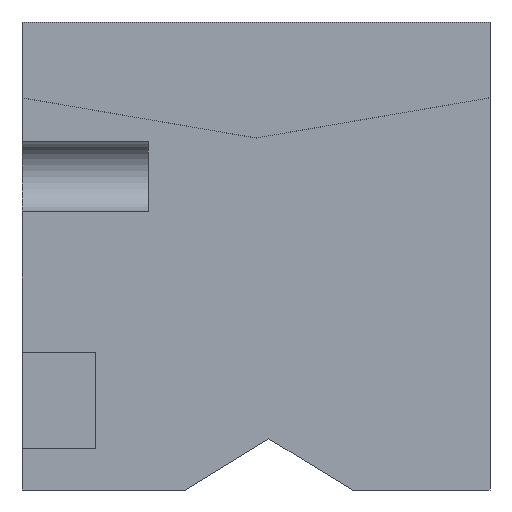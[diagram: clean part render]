
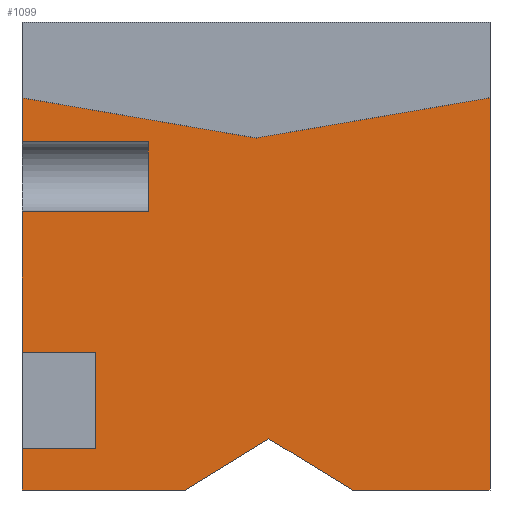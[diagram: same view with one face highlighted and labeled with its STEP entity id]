
A CAD part, front view. The second image highlights one B-rep face of the part: STEP entity #1099.
In plain terms, the highlighted planar face has unit normal (0, -1, 0).
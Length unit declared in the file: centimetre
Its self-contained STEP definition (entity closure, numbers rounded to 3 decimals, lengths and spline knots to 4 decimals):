
#3 = ORIENTED_EDGE ( 'NONE', *, *, #137, .T. ) ;
#6 = CARTESIAN_POINT ( 'NONE',  ( 348.3038, 0., 0. ) ) ;
#11 = CARTESIAN_POINT ( 'NONE',  ( 1000., 0., 838.026 ) ) ;
#22 = EDGE_CURVE ( 'NONE', #906, #1128, #154, .T. ) ;
#25 = DIRECTION ( 'NONE',  ( 0.986, 0., 0.169 ) ) ;
#44 = EDGE_CURVE ( 'NONE', #492, #1404, #311, .T. ) ;
#68 = CARTESIAN_POINT ( 'NONE',  ( 0., 0., 1000. ) ) ;
#77 = DIRECTION ( 'NONE',  ( 0., 0., -1. ) ) ;
#105 = VERTEX_POINT ( 'NONE', #958 ) ;
#112 = DIRECTION ( 'NONE',  ( -1., 0., 0. ) ) ;
#118 = CARTESIAN_POINT ( 'NONE',  ( 348.3038, 0., 0. ) ) ;
#137 = EDGE_CURVE ( 'NONE', #906, #1406, #814, .T. ) ;
#151 = VERTEX_POINT ( 'NONE', #946 ) ;
#154 = LINE ( 'NONE', #304, #870 ) ;
#167 = DIRECTION ( 'NONE',  ( -1., 0., 0. ) ) ;
#182 = EDGE_CURVE ( 'NONE', #1404, #1490, #1574, .T. ) ;
#208 = VERTEX_POINT ( 'NONE', #264 ) ;
#213 = CARTESIAN_POINT ( 'NONE',  ( 0., 0., 0. ) ) ;
#218 = VECTOR ( 'NONE', #167, 100. ) ;
#221 = ORIENTED_EDGE ( 'NONE', *, *, #1197, .F. ) ;
#224 = EDGE_CURVE ( 'NONE', #1490, #345, #631, .T. ) ;
#230 = VERTEX_POINT ( 'NONE', #6 ) ;
#254 = VECTOR ( 'NONE', #1438, 100. ) ;
#256 = LINE ( 'NONE', #1155, #1027 ) ;
#264 = CARTESIAN_POINT ( 'NONE',  ( 500., 0., 752.1271 ) ) ;
#273 = DIRECTION ( 'NONE',  ( 0., 0., 1. ) ) ;
#304 = CARTESIAN_POINT ( 'NONE',  ( 527.3729, 0., 109.4232 ) ) ;
#311 = LINE ( 'NONE', #800, #895 ) ;
#342 = ORIENTED_EDGE ( 'NONE', *, *, #1524, .T. ) ;
#345 = VERTEX_POINT ( 'NONE', #1013 ) ;
#352 = VECTOR ( 'NONE', #25, 100. ) ;
#367 = EDGE_CURVE ( 'NONE', #208, #477, #1272, .T. ) ;
#371 = ORIENTED_EDGE ( 'NONE', *, *, #992, .F. ) ;
#381 = VECTOR ( 'NONE', #112, 100. ) ;
#434 = ORIENTED_EDGE ( 'NONE', *, *, #22, .F. ) ;
#466 = LINE ( 'NONE', #734, #381 ) ;
#469 = EDGE_CURVE ( 'NONE', #1470, #105, #256, .T. ) ;
#477 = VERTEX_POINT ( 'NONE', #11 ) ;
#491 = DIRECTION ( 'NONE',  ( 0., 0., -1. ) ) ;
#492 = VERTEX_POINT ( 'NONE', #749 ) ;
#499 = LINE ( 'NONE', #118, #1371 ) ;
#505 = ORIENTED_EDGE ( 'NONE', *, *, #44, .T. ) ;
#552 = EDGE_LOOP ( 'NONE', ( #665, #600, #1482, #221, #342, #1053, #998, #434, #3, #1492, #1356, #371, #1430, #1352, #505, #1187 ) ) ;
#594 = DIRECTION ( 'NONE',  ( 1., 0., 0. ) ) ;
#600 = ORIENTED_EDGE ( 'NONE', *, *, #766, .F. ) ;
#620 = DIRECTION ( 'NONE',  ( 1., 0., 0. ) ) ;
#631 = LINE ( 'NONE', #756, #1165 ) ;
#646 = CARTESIAN_POINT ( 'NONE',  ( 1000., 0., 1000. ) ) ;
#653 = CARTESIAN_POINT ( 'NONE',  ( 0., 0., 87.7994 ) ) ;
#654 = DIRECTION ( 'NONE',  ( 0., 0., -1. ) ) ;
#665 = ORIENTED_EDGE ( 'NONE', *, *, #224, .T. ) ;
#669 = VECTOR ( 'NONE', #77, 100. ) ;
#727 = CARTESIAN_POINT ( 'NONE',  ( 0., 0., 1000. ) ) ;
#734 = CARTESIAN_POINT ( 'NONE',  ( 270.1269, 0., 743.8163 ) ) ;
#749 = CARTESIAN_POINT ( 'NONE',  ( 270.1269, 0., 743.8163 ) ) ;
#756 = CARTESIAN_POINT ( 'NONE',  ( 0., 0., 1000. ) ) ;
#762 = LINE ( 'NONE', #1508, #218 ) ;
#766 = EDGE_CURVE ( 'NONE', #105, #345, #762, .T. ) ;
#789 = VECTOR ( 'NONE', #1555, 100. ) ;
#793 = CARTESIAN_POINT ( 'NONE',  ( 500., 0., 752.1271 ) ) ;
#800 = CARTESIAN_POINT ( 'NONE',  ( 270.1269, 0., 1000. ) ) ;
#805 = CARTESIAN_POINT ( 'NONE',  ( 270.1269, 0., 594.6625 ) ) ;
#814 = LINE ( 'NONE', #213, #1030 ) ;
#824 = DIRECTION ( 'NONE',  ( 1., 0., 0. ) ) ;
#858 = LINE ( 'NONE', #1486, #1518 ) ;
#864 = CARTESIAN_POINT ( 'NONE',  ( 0., 0., 743.8163 ) ) ;
#870 = VECTOR ( 'NONE', #1522, 100. ) ;
#876 = VECTOR ( 'NONE', #1257, 100. ) ;
#895 = VECTOR ( 'NONE', #654, 100. ) ;
#897 = DIRECTION ( 'NONE',  ( 0.986, 0., -0.169 ) ) ;
#906 = VERTEX_POINT ( 'NONE', #1426 ) ;
#945 = CARTESIAN_POINT ( 'NONE',  ( 0., 0., 0. ) ) ;
#946 = CARTESIAN_POINT ( 'NONE',  ( 0., 0., 838.026 ) ) ;
#950 = LINE ( 'NONE', #727, #254 ) ;
#958 = CARTESIAN_POINT ( 'NONE',  ( 156.1051, 0., 294.1408 ) ) ;
#959 = FACE_OUTER_BOUND ( 'NONE', #552, .T. ) ;
#981 = AXIS2_PLACEMENT_3D ( 'NONE', #1075, #1473, #1575 ) ;
#992 = EDGE_CURVE ( 'NONE', #151, #208, #1034, .T. ) ;
#998 = ORIENTED_EDGE ( 'NONE', *, *, #1228, .F. ) ;
#1013 = CARTESIAN_POINT ( 'NONE',  ( 0., 0., 294.1408 ) ) ;
#1027 = VECTOR ( 'NONE', #273, 100. ) ;
#1030 = VECTOR ( 'NONE', #594, 100. ) ;
#1034 = LINE ( 'NONE', #793, #1217 ) ;
#1053 = ORIENTED_EDGE ( 'NONE', *, *, #1289, .T. ) ;
#1072 = LINE ( 'NONE', #68, #669 ) ;
#1075 = CARTESIAN_POINT ( 'NONE',  ( 0., 0., 1000. ) ) ;
#1099 = ADVANCED_FACE ( 'NONE', ( #959 ), #1593, .F. ) ;
#1119 = VECTOR ( 'NONE', #824, 100. ) ;
#1128 = VERTEX_POINT ( 'NONE', #1337 ) ;
#1129 = LINE ( 'NONE', #646, #876 ) ;
#1146 = EDGE_CURVE ( 'NONE', #151, #1271, #950, .T. ) ;
#1147 = EDGE_CURVE ( 'NONE', #492, #1271, #466, .T. ) ;
#1155 = CARTESIAN_POINT ( 'NONE',  ( 156.1051, 0., 87.7994 ) ) ;
#1165 = VECTOR ( 'NONE', #491, 100. ) ;
#1169 = CARTESIAN_POINT ( 'NONE',  ( 1000., 0., 0. ) ) ;
#1174 = CARTESIAN_POINT ( 'NONE',  ( 0., 0., 594.6625 ) ) ;
#1187 = ORIENTED_EDGE ( 'NONE', *, *, #182, .T. ) ;
#1197 = EDGE_CURVE ( 'NONE', #1455, #1470, #1586, .T. ) ;
#1217 = VECTOR ( 'NONE', #897, 100. ) ;
#1228 = EDGE_CURVE ( 'NONE', #1128, #230, #499, .T. ) ;
#1257 = DIRECTION ( 'NONE',  ( 0., 0., -1. ) ) ;
#1271 = VERTEX_POINT ( 'NONE', #864 ) ;
#1272 = LINE ( 'NONE', #1411, #352 ) ;
#1289 = EDGE_CURVE ( 'NONE', #1587, #230, #858, .T. ) ;
#1318 = CARTESIAN_POINT ( 'NONE',  ( 0., 0., 87.7994 ) ) ;
#1320 = EDGE_CURVE ( 'NONE', #477, #1406, #1129, .T. ) ;
#1337 = CARTESIAN_POINT ( 'NONE',  ( 527.3729, 0., 109.4232 ) ) ;
#1352 = ORIENTED_EDGE ( 'NONE', *, *, #1147, .F. ) ;
#1356 = ORIENTED_EDGE ( 'NONE', *, *, #367, .F. ) ;
#1371 = VECTOR ( 'NONE', #1506, 100. ) ;
#1404 = VERTEX_POINT ( 'NONE', #805 ) ;
#1406 = VERTEX_POINT ( 'NONE', #1169 ) ;
#1411 = CARTESIAN_POINT ( 'NONE',  ( 1000., 0., 838.026 ) ) ;
#1426 = CARTESIAN_POINT ( 'NONE',  ( 706.442, 0., 0. ) ) ;
#1430 = ORIENTED_EDGE ( 'NONE', *, *, #1146, .T. ) ;
#1438 = DIRECTION ( 'NONE',  ( 0., 0., -1. ) ) ;
#1455 = VERTEX_POINT ( 'NONE', #653 ) ;
#1470 = VERTEX_POINT ( 'NONE', #1545 ) ;
#1473 = DIRECTION ( 'NONE',  ( 0., 1., 0. ) ) ;
#1482 = ORIENTED_EDGE ( 'NONE', *, *, #469, .F. ) ;
#1486 = CARTESIAN_POINT ( 'NONE',  ( 0., 0., 0. ) ) ;
#1490 = VERTEX_POINT ( 'NONE', #1174 ) ;
#1492 = ORIENTED_EDGE ( 'NONE', *, *, #1320, .F. ) ;
#1506 = DIRECTION ( 'NONE',  ( -0.853, 0., -0.521 ) ) ;
#1508 = CARTESIAN_POINT ( 'NONE',  ( 0., 0., 294.1408 ) ) ;
#1518 = VECTOR ( 'NONE', #620, 100. ) ;
#1522 = DIRECTION ( 'NONE',  ( -0.853, 0., 0.521 ) ) ;
#1524 = EDGE_CURVE ( 'NONE', #1455, #1587, #1072, .T. ) ;
#1545 = CARTESIAN_POINT ( 'NONE',  ( 156.1051, 0., 87.7994 ) ) ;
#1555 = DIRECTION ( 'NONE',  ( -1., 0., 0. ) ) ;
#1574 = LINE ( 'NONE', #1584, #789 ) ;
#1575 = DIRECTION ( 'NONE',  ( 0., 0., 1. ) ) ;
#1584 = CARTESIAN_POINT ( 'NONE',  ( 270.1269, 0., 594.6625 ) ) ;
#1586 = LINE ( 'NONE', #1318, #1119 ) ;
#1587 = VERTEX_POINT ( 'NONE', #945 ) ;
#1593 = PLANE ( 'NONE',  #981 ) ;
